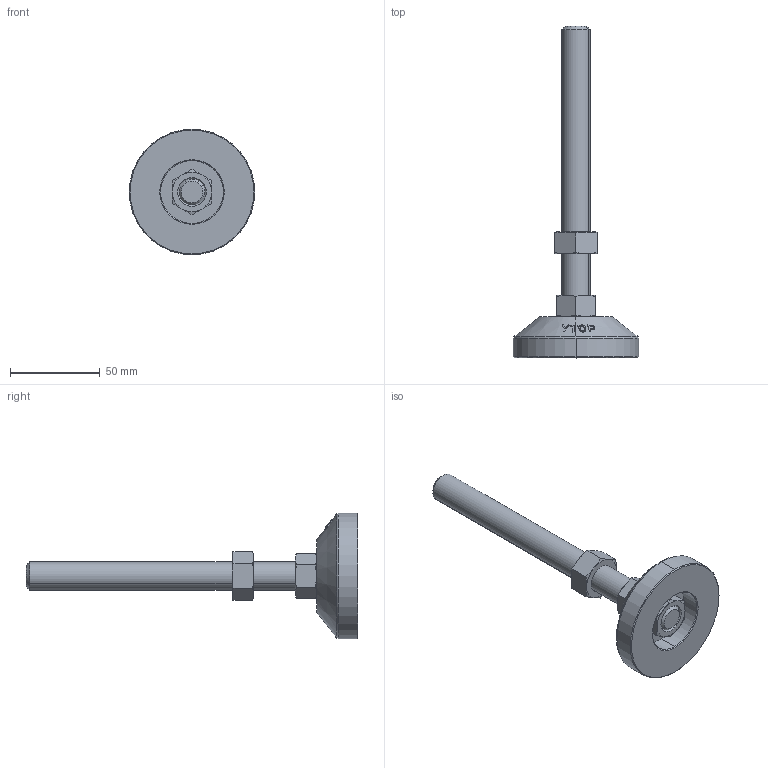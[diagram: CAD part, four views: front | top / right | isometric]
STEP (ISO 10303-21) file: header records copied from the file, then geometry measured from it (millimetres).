
FILE_DESCRIPTION (( 'STEP AP203' ), '1' );
FILE_NAME ('M-70-16150-S.STEP', '2020-09-10T06:59:13', ( '' ), ( '' ), 'SwSTEP 2.0', 'SolidWorks 2016', '' );
FILE_SCHEMA (( 'CONFIG_CONTROL_DESIGN' ));
Length unit declared in the file: millimetre
Products named in the file (5): M-70-1褐菜 ; 不锈钢双头螺杆M16系列_M16X150; M-70-16150-S; 脚垫锁紧六角薄螺母M16; 脚垫调节六角螺母M16
Assembly tree (4 placements, depth 2):
  M-70-16150-S
    M-70-1褐菜 
    不锈钢双头螺杆M16系列_M16X150
    脚垫锁紧六角薄螺母M16
    脚垫调节六角螺母M16
Bounding box: 70 x 185 x 70 mm (x, y, z)
Volume: 104085.8 mm3; surface area: 25718.6 mm2
Topology: 4 solids, 4 shells, 143 faces, 329 edges, 202 vertices
Faces by surface type: cone 62, bspline 38, plane 29, cylinder 14
Entity records: 8592 total; most frequent: CARTESIAN_POINT 5241, ORIENTED_EDGE 658, DIRECTION 457, EDGE_CURVE 329, VERTEX_POINT 202, AXIS2_PLACEMENT_3D 196, B_SPLINE_CURVE_WITH_KNOTS 180, EDGE_LOOP 157
